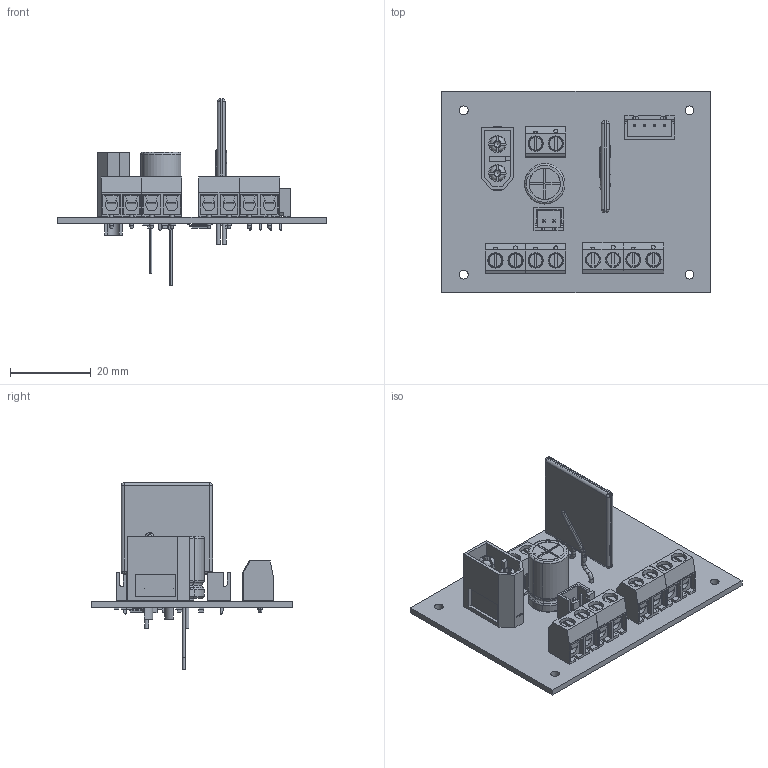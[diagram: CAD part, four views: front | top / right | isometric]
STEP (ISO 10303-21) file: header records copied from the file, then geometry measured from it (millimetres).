
FILE_DESCRIPTION(('KiCad electronic assembly'),'2;1');
FILE_NAME('piso 1 pcb power.step','2026-04-23T15:18:28',('Pcbnew'),( 'Kicad'),'Open CASCADE STEP processor 7.9','KiCad to STEP converter' ,'Unknown');
FILE_SCHEMA(('AUTOMOTIVE_DESIGN { 1 0 10303 214 1 1 1 1 }'));
Length unit declared in the file: millimetre
Products named in the file (16): piso 1 pcb power 1; 395430602; ECA1CM102; 0ZRN1400FF1A; 0ZRN1400FF1A_PART1; 0ZRN1400FF1A_PART2; 0ZRN1400FF1A_PART3; 0ZRN1400FF1A_PART4; JST_XH_B2B-XH-A_1x02_P2.50mm_Vertical; AMASS_XT60-M_1x02_P7.2mm_Vertical; JST_XH_B4B-XH-A_1x04_P2.50mm_Vertical; R_0805_2012Metric; C_0805_2012Metric; LED_0805_2012Metric; TSSOP-16_4.4x5mm_P0.65mm; piso 1 pcb power_PCB
Assembly tree (27 placements, depth 3):
  piso 1 pcb power 1
    395430602  x5
    ECA1CM102
    0ZRN1400FF1A
      0ZRN1400FF1A_PART1
      0ZRN1400FF1A_PART2
      0ZRN1400FF1A_PART3
      0ZRN1400FF1A_PART4
    JST_XH_B2B-XH-A_1x02_P2.50mm_Vertical
    AMASS_XT60-M_1x02_P7.2mm_Vertical
    JST_XH_B4B-XH-A_1x04_P2.50mm_Vertical
    R_0805_2012Metric  x6
    C_0805_2012Metric  x3
    LED_0805_2012Metric  x2
    TSSOP-16_4.4x5mm_P0.65mm
    piso 1 pcb power_PCB
Bounding box: 66.5 x 50 x 46.35 mm (x, y, z)
Volume: 8605.6 mm3; surface area: 20939.5 mm2
Topology: 27 solids, 32 shells, 1979 faces, 5272 edges, 3379 vertices
Faces by surface type: plane 1215, cylinder 511, bspline 133, torus 64, cone 44, sphere 12
Full cylindrical faces by diameter (mm): 0.85 x2, 0.95 x4, 1 x10, 1.2 x2, 1.3 x10, 2.2 x4, 3 x2, 4.3 x4, 4.5 x2, 6 x2
Entity records: 47462 total; most frequent: CARTESIAN_POINT 10278, ORIENTED_EDGE 6725, DIRECTION 6151, EDGE_CURVE 3363, LINE 2315, VECTOR 2315, VERTEX_POINT 2162, AXIS2_PLACEMENT_3D 1918
